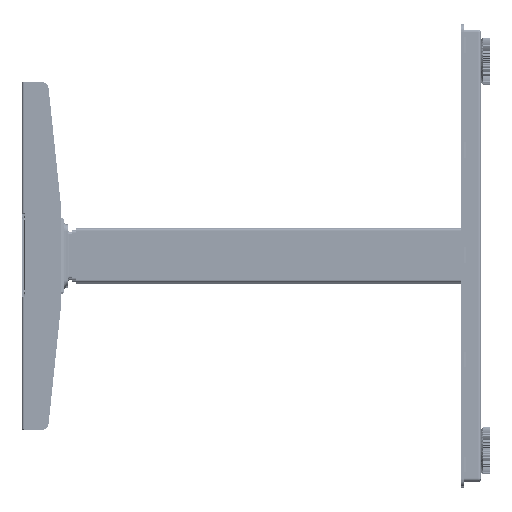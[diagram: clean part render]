
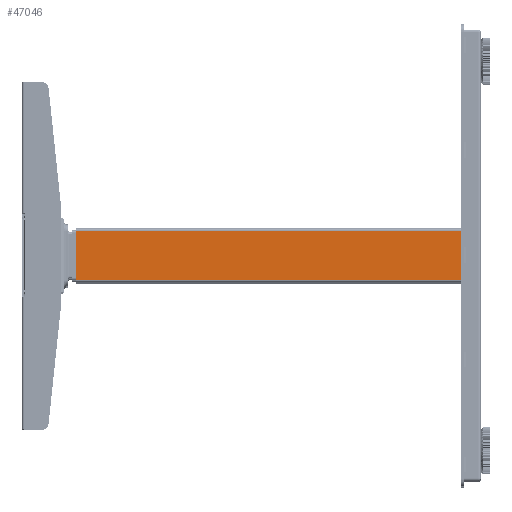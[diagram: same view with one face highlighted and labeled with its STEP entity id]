
A CAD part, top view. The second image highlights one B-rep face of the part: STEP entity #47046.
In plain terms, the highlighted planar face has unit normal (0, 0, 1) as drawn and (0, 1, 0) by its records, which use the part's own axes.
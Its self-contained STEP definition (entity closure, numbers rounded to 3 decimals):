
#46082=DIRECTION('',(-1.,0.,0.));
#46083=VECTOR('',#46082,64.);
#46084=CARTESIAN_POINT('',(32.,35.,0.));
#46085=LINE('',#46084,#46083);
#46137=DIRECTION('',(0.,0.,-1.));
#46138=VECTOR('',#46137,500.);
#46139=CARTESIAN_POINT('',(32.,35.,500.));
#46140=LINE('',#46139,#46138);
#46169=DIRECTION('',(0.,0.,1.));
#46170=VECTOR('',#46169,500.);
#46171=CARTESIAN_POINT('',(-32.,35.,0.));
#46172=LINE('',#46171,#46170);
#46177=DIRECTION('',(-1.,0.,0.));
#46178=VECTOR('',#46177,64.);
#46179=CARTESIAN_POINT('',(32.,35.,500.));
#46180=LINE('',#46179,#46178);
#46702=CARTESIAN_POINT('',(32.,35.,0.));
#46704=VERTEX_POINT('',#46702);
#46705=CARTESIAN_POINT('',(-32.,35.,0.));
#46706=VERTEX_POINT('',#46705);
#46735=CARTESIAN_POINT('',(32.,35.,500.));
#46736=VERTEX_POINT('',#46735);
#46747=CARTESIAN_POINT('',(-32.,35.,500.));
#46748=VERTEX_POINT('',#46747);
#47034=CARTESIAN_POINT('',(35.,35.,0.));
#47035=DIRECTION('',(0.,1.,0.));
#47036=DIRECTION('',(-1.,0.,0.));
#47037=AXIS2_PLACEMENT_3D('',#47034,#47035,#47036);
#47038=PLANE('',#47037);
#47039=ORIENTED_EDGE('',*,*,#46945,.F.);
#47041=ORIENTED_EDGE('',*,*,#47040,.T.);
#47042=ORIENTED_EDGE('',*,*,#47026,.F.);
#47043=ORIENTED_EDGE('',*,*,#46900,.F.);
#47044=EDGE_LOOP('',(#47039,#47041,#47042,#47043));
#47045=FACE_OUTER_BOUND('',#47044,.F.);
#47046=ADVANCED_FACE('',(#47045),#47038,.T.);
#46900=EDGE_CURVE('',#46704,#46706,#46085,.T.);
#46945=EDGE_CURVE('',#46736,#46704,#46140,.T.);
#47026=EDGE_CURVE('',#46706,#46748,#46172,.T.);
#47040=EDGE_CURVE('',#46736,#46748,#46180,.T.);
